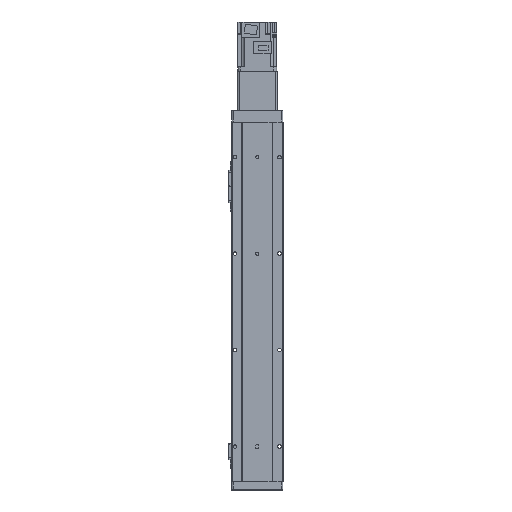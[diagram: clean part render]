
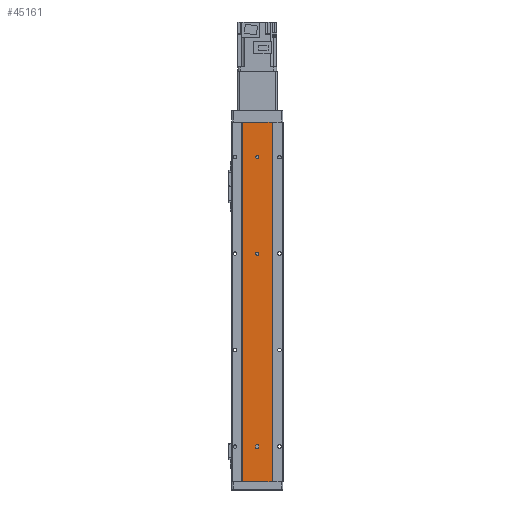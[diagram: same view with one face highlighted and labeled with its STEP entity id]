
A CAD part, front view. The second image highlights one B-rep face of the part: STEP entity #45161.
In plain terms, the highlighted planar face has unit normal (0, -1, 0).
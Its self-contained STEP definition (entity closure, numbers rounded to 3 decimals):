
#3804 = AXIS2_PLACEMENT_3D ( 'NONE', #41288, #41277, #41298 ) ;
#3816 = AXIS2_PLACEMENT_3D ( 'NONE', #41265, #41289, #41275 ) ;
#3860 = AXIS2_PLACEMENT_3D ( 'NONE', #41449, #41447, #41436 ) ;
#7958 = EDGE_CURVE ( 'NONE', #9488, #9503, #38447, .T. ) ;
#7959 = EDGE_CURVE ( 'NONE', #9618, #9399, #38449, .T. ) ;
#8018 = EDGE_CURVE ( 'NONE', #9614, #9510, #38618, .T. ) ;
#8726 = VERTEX_POINT ( 'NONE', #43929 ) ;
#8770 = VERTEX_POINT ( 'NONE', #43917 ) ;
#8775 = VERTEX_POINT ( 'NONE', #43867 ) ;
#9399 = VERTEX_POINT ( 'NONE', #44268 ) ;
#9488 = VERTEX_POINT ( 'NONE', #44337 ) ;
#9503 = VERTEX_POINT ( 'NONE', #44346 ) ;
#9510 = VERTEX_POINT ( 'NONE', #44374 ) ;
#9614 = VERTEX_POINT ( 'NONE', #44424 ) ;
#9618 = VERTEX_POINT ( 'NONE', #44394 ) ;
#9995 = VERTEX_POINT ( 'NONE', #44530 ) ;
#10055 = VERTEX_POINT ( 'NONE', #44576 ) ;
#10070 = VERTEX_POINT ( 'NONE', #44619 ) ;
#10137 = VERTEX_POINT ( 'NONE', #44631 ) ;
#15412 = EDGE_CURVE ( 'NONE', #9995, #10070, #38884, .T. ) ;
#15423 = EDGE_CURVE ( 'NONE', #10055, #10137, #38875, .T. ) ;
#15931 = EDGE_CURVE ( 'NONE', #10055, #9995, #28426, .T. ) ;
#15944 = EDGE_CURVE ( 'NONE', #10137, #10070, #28443, .T. ) ;
#15948 = EDGE_CURVE ( 'NONE', #8770, #8775, #28467, .T. ) ;
#15952 = EDGE_CURVE ( 'NONE', #9510, #9614, #28478, .T. ) ;
#15959 = EDGE_CURVE ( 'NONE', #9399, #8770, #28534, .T. ) ;
#15963 = EDGE_CURVE ( 'NONE', #9503, #9488, #28539, .T. ) ;
#15968 = EDGE_CURVE ( 'NONE', #8775, #8726, #28485, .T. ) ;
#15970 = EDGE_CURVE ( 'NONE', #8726, #9618, #28502, .T. ) ;
#24731 = EDGE_LOOP ( 'NONE', ( #32879, #32887, #32852, #32837 ) ) ;
#24755 = EDGE_LOOP ( 'NONE', ( #32866, #32872 ) ) ;
#24758 = EDGE_LOOP ( 'NONE', ( #32884, #32845, #32827, #32835, #32864 ) ) ;
#24765 = EDGE_LOOP ( 'NONE', ( #32806, #32807 ) ) ;
#26550 = AXIS2_PLACEMENT_3D ( 'NONE', #29636, #29637, #29640 ) ;
#26551 = AXIS2_PLACEMENT_3D ( 'NONE', #29579, #29572, #29598 ) ;
#26553 = AXIS2_PLACEMENT_3D ( 'NONE', #29616, #29632, #29607 ) ;
#26588 = AXIS2_PLACEMENT_3D ( 'NONE', #29574, #29594, #29567 ) ;
#27075 = AXIS2_PLACEMENT_3D ( 'NONE', #37349, #37341, #37365 ) ;
#28426 = LINE ( 'NONE', #29536, #28452 ) ;
#28443 = LINE ( 'NONE', #29530, #28444 ) ;
#28444 = VECTOR ( 'NONE', #29539, 1000. ) ;
#28452 = VECTOR ( 'NONE', #29554, 1000. ) ;
#28467 = CIRCLE ( 'NONE', #26588, 2.5 ) ;
#28478 = CIRCLE ( 'NONE', #26551, 2.5 ) ;
#28485 = LINE ( 'NONE', #29642, #28486 ) ;
#28486 = VECTOR ( 'NONE', #29627, 1000. ) ;
#28494 = VECTOR ( 'NONE', #29595, 1000. ) ;
#28502 = CIRCLE ( 'NONE', #26550, 2.5 ) ;
#28534 = LINE ( 'NONE', #29601, #28494 ) ;
#28539 = CIRCLE ( 'NONE', #26553, 2.5 ) ;
#29530 = CARTESIAN_POINT ( 'NONE',  ( 23., 0.5, -559. ) ) ;
#29536 = CARTESIAN_POINT ( 'NONE',  ( -23., 0.5, -559. ) ) ;
#29539 = DIRECTION ( 'NONE',  ( 0., 0., 1. ) ) ;
#29554 = DIRECTION ( 'NONE',  ( 0., 0., 1. ) ) ;
#29567 = DIRECTION ( 'NONE',  ( 1., 0., 0. ) ) ;
#29572 = DIRECTION ( 'NONE',  ( 0., -1., 0. ) ) ;
#29574 = CARTESIAN_POINT ( 'NONE',  ( 0., 0.5, -503.5 ) ) ;
#29579 = CARTESIAN_POINT ( 'NONE',  ( 0., 0.5, -54.5 ) ) ;
#29594 = DIRECTION ( 'NONE',  ( 0., -1., 0. ) ) ;
#29595 = DIRECTION ( 'NONE',  ( 0., 0., 1. ) ) ;
#29598 = DIRECTION ( 'NONE',  ( 1., 0., 0. ) ) ;
#29601 = CARTESIAN_POINT ( 'NONE',  ( 2.5, 0.5, -559. ) ) ;
#29607 = DIRECTION ( 'NONE',  ( 1., 0., 0. ) ) ;
#29616 = CARTESIAN_POINT ( 'NONE',  ( 0., 0.5, -204.5 ) ) ;
#29627 = DIRECTION ( 'NONE',  ( 0., 0., -1. ) ) ;
#29632 = DIRECTION ( 'NONE',  ( 0., -1., 0. ) ) ;
#29636 = CARTESIAN_POINT ( 'NONE',  ( 0., 0.5, -505.5 ) ) ;
#29637 = DIRECTION ( 'NONE',  ( 0., -1., 0. ) ) ;
#29640 = DIRECTION ( 'NONE',  ( 1., 0., 0. ) ) ;
#29642 = CARTESIAN_POINT ( 'NONE',  ( -2.5, 0.5, -559. ) ) ;
#32806 = ORIENTED_EDGE ( 'NONE', *, *, #15963, .F. ) ;
#32807 = ORIENTED_EDGE ( 'NONE', *, *, #7958, .F. ) ;
#32827 = ORIENTED_EDGE ( 'NONE', *, *, #15948, .F. ) ;
#32835 = ORIENTED_EDGE ( 'NONE', *, *, #15959, .F. ) ;
#32837 = ORIENTED_EDGE ( 'NONE', *, *, #15944, .T. ) ;
#32845 = ORIENTED_EDGE ( 'NONE', *, *, #15968, .F. ) ;
#32852 = ORIENTED_EDGE ( 'NONE', *, *, #15423, .T. ) ;
#32864 = ORIENTED_EDGE ( 'NONE', *, *, #7959, .F. ) ;
#32866 = ORIENTED_EDGE ( 'NONE', *, *, #15952, .F. ) ;
#32872 = ORIENTED_EDGE ( 'NONE', *, *, #8018, .F. ) ;
#32879 = ORIENTED_EDGE ( 'NONE', *, *, #15412, .F. ) ;
#32884 = ORIENTED_EDGE ( 'NONE', *, *, #15970, .F. ) ;
#32887 = ORIENTED_EDGE ( 'NONE', *, *, #15931, .F. ) ;
#37341 = DIRECTION ( 'NONE',  ( 0., -1., 0. ) ) ;
#37349 = CARTESIAN_POINT ( 'NONE',  ( -23., 0.5, -559. ) ) ;
#37354 = PLANE ( 'NONE',  #27075 ) ;
#37365 = DIRECTION ( 'NONE',  ( 1., 0., 0. ) ) ;
#37884 = FACE_BOUND ( 'NONE', #24758, .T. ) ;
#37900 = FACE_BOUND ( 'NONE', #24755, .T. ) ;
#37901 = FACE_OUTER_BOUND ( 'NONE', #24731, .T. ) ;
#37902 = FACE_BOUND ( 'NONE', #24765, .T. ) ;
#38447 = CIRCLE ( 'NONE', #3804, 2.5 ) ;
#38449 = CIRCLE ( 'NONE', #3816, 2.5 ) ;
#38618 = CIRCLE ( 'NONE', #3860, 2.5 ) ;
#38828 = VECTOR ( 'NONE', #44876, 1000. ) ;
#38853 = VECTOR ( 'NONE', #44833, 1000. ) ;
#38875 = LINE ( 'NONE', #44860, #38828 ) ;
#38884 = LINE ( 'NONE', #44856, #38853 ) ;
#41265 = CARTESIAN_POINT ( 'NONE',  ( 0., 0.5, -505.5 ) ) ;
#41275 = DIRECTION ( 'NONE',  ( 1., 0., 0. ) ) ;
#41277 = DIRECTION ( 'NONE',  ( 0., -1., 0. ) ) ;
#41288 = CARTESIAN_POINT ( 'NONE',  ( 0., 0.5, -204.5 ) ) ;
#41289 = DIRECTION ( 'NONE',  ( 0., -1., 0. ) ) ;
#41298 = DIRECTION ( 'NONE',  ( 1., 0., 0. ) ) ;
#41436 = DIRECTION ( 'NONE',  ( 1., 0., 0. ) ) ;
#41447 = DIRECTION ( 'NONE',  ( 0., -1., 0. ) ) ;
#41449 = CARTESIAN_POINT ( 'NONE',  ( 0., 0.5, -54.5 ) ) ;
#43867 = CARTESIAN_POINT ( 'NONE',  ( -2.5, 0.5, -503.5 ) ) ;
#43917 = CARTESIAN_POINT ( 'NONE',  ( 2.5, 0.5, -503.5 ) ) ;
#43929 = CARTESIAN_POINT ( 'NONE',  ( -2.5, 0.5, -505.5 ) ) ;
#44268 = CARTESIAN_POINT ( 'NONE',  ( 2.5, 0.5, -505.5 ) ) ;
#44337 = CARTESIAN_POINT ( 'NONE',  ( 0., 0.5, -202. ) ) ;
#44346 = CARTESIAN_POINT ( 'NONE',  ( 0., 0.5, -207. ) ) ;
#44374 = CARTESIAN_POINT ( 'NONE',  ( 0., 0.5, -57. ) ) ;
#44394 = CARTESIAN_POINT ( 'NONE',  ( 0., 0.5, -508. ) ) ;
#44424 = CARTESIAN_POINT ( 'NONE',  ( 0., 0.5, -52. ) ) ;
#44530 = CARTESIAN_POINT ( 'NONE',  ( -23., 0.5, 0. ) ) ;
#44576 = CARTESIAN_POINT ( 'NONE',  ( -23., 0.5, -559. ) ) ;
#44619 = CARTESIAN_POINT ( 'NONE',  ( 23., 0.5, 0. ) ) ;
#44631 = CARTESIAN_POINT ( 'NONE',  ( 23., 0.5, -559. ) ) ;
#44833 = DIRECTION ( 'NONE',  ( 1., 0., 0. ) ) ;
#44856 = CARTESIAN_POINT ( 'NONE',  ( -23., 0.5, 0. ) ) ;
#44860 = CARTESIAN_POINT ( 'NONE',  ( -23., 0.5, -559. ) ) ;
#44876 = DIRECTION ( 'NONE',  ( 1., 0., 0. ) ) ;
#45161 = ADVANCED_FACE ( 'NONE', ( #37884, #37902, #37900, #37901 ), #37354, .T. ) ;
